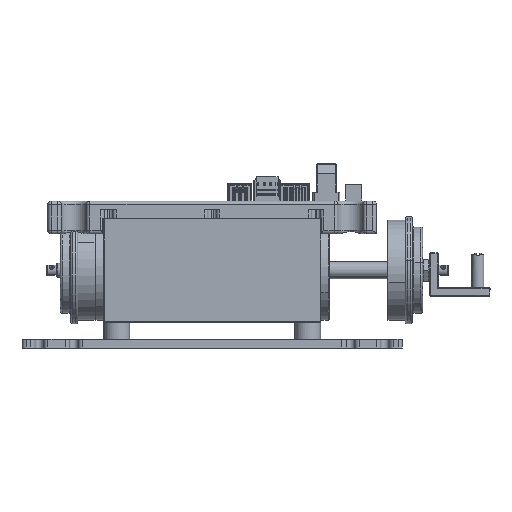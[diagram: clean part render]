
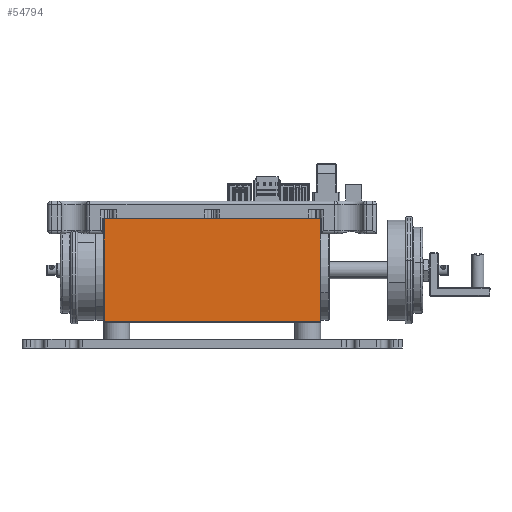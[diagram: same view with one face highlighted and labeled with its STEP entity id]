
A CAD part, front view. The second image highlights one B-rep face of the part: STEP entity #54794.
In plain terms, the highlighted planar face has unit normal (0, -1, 0).
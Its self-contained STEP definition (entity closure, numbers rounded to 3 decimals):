
#1953 = CARTESIAN_POINT ( 'NONE',  ( -62.5, -30., 0. ) ) ;
#6073 = CARTESIAN_POINT ( 'NONE',  ( -62.5, -30., -29.75 ) ) ;
#9190 = DIRECTION ( 'NONE',  ( 0., 0., 1. ) ) ;
#9474 = FACE_OUTER_BOUND ( 'NONE', #62701, .T. ) ;
#11092 = EDGE_CURVE ( 'NONE', #67048, #48014, #38076, .T. ) ;
#11823 = ORIENTED_EDGE ( 'NONE', *, *, #11092, .F. ) ;
#16311 = VERTEX_POINT ( 'NONE', #65235 ) ;
#16564 = ORIENTED_EDGE ( 'NONE', *, *, #61589, .T. ) ;
#16678 = VECTOR ( 'NONE', #55407, 1000. ) ;
#17389 = VECTOR ( 'NONE', #47477, 1000. ) ;
#18910 = LINE ( 'NONE', #1953, #22976 ) ;
#18918 = CARTESIAN_POINT ( 'NONE',  ( 0., -30., -29.75 ) ) ;
#20591 = CARTESIAN_POINT ( 'NONE',  ( 62.5, -30., 29.75 ) ) ;
#22976 = VECTOR ( 'NONE', #52542, 1000. ) ;
#25823 = CARTESIAN_POINT ( 'NONE',  ( 62.5, -30., 0. ) ) ;
#35429 = CARTESIAN_POINT ( 'NONE',  ( -62.5, -30., 29.75 ) ) ;
#36609 = PLANE ( 'NONE',  #54114 ) ;
#36958 = DIRECTION ( 'NONE',  ( 0., -1., 0. ) ) ;
#38076 = LINE ( 'NONE', #44194, #16678 ) ;
#40962 = DIRECTION ( 'NONE',  ( 0., 0., -1. ) ) ;
#41336 = LINE ( 'NONE', #18918, #17389 ) ;
#42394 = ORIENTED_EDGE ( 'NONE', *, *, #55596, .T. ) ;
#44194 = CARTESIAN_POINT ( 'NONE',  ( 0., -30., 29.75 ) ) ;
#46565 = VECTOR ( 'NONE', #9190, 1000. ) ;
#47089 = CARTESIAN_POINT ( 'NONE',  ( -62.51, -30., 29.76 ) ) ;
#47477 = DIRECTION ( 'NONE',  ( 1., 0., 0. ) ) ;
#48014 = VERTEX_POINT ( 'NONE', #20591 ) ;
#50127 = EDGE_CURVE ( 'NONE', #52350, #16311, #41336, .T. ) ;
#52350 = VERTEX_POINT ( 'NONE', #6073 ) ;
#52542 = DIRECTION ( 'NONE',  ( 0., 0., -1. ) ) ;
#54114 = AXIS2_PLACEMENT_3D ( 'NONE', #47089, #36958, #40962 ) ;
#54372 = LINE ( 'NONE', #25823, #46565 ) ;
#54794 = ADVANCED_FACE ( 'NONE', ( #9474 ), #36609, .T. ) ;
#55407 = DIRECTION ( 'NONE',  ( 1., 0., 0. ) ) ;
#55596 = EDGE_CURVE ( 'NONE', #67048, #52350, #18910, .T. ) ;
#57840 = ORIENTED_EDGE ( 'NONE', *, *, #50127, .T. ) ;
#61589 = EDGE_CURVE ( 'NONE', #16311, #48014, #54372, .T. ) ;
#62701 = EDGE_LOOP ( 'NONE', ( #57840, #16564, #11823, #42394 ) ) ;
#65235 = CARTESIAN_POINT ( 'NONE',  ( 62.5, -30., -29.75 ) ) ;
#67048 = VERTEX_POINT ( 'NONE', #35429 ) ;
